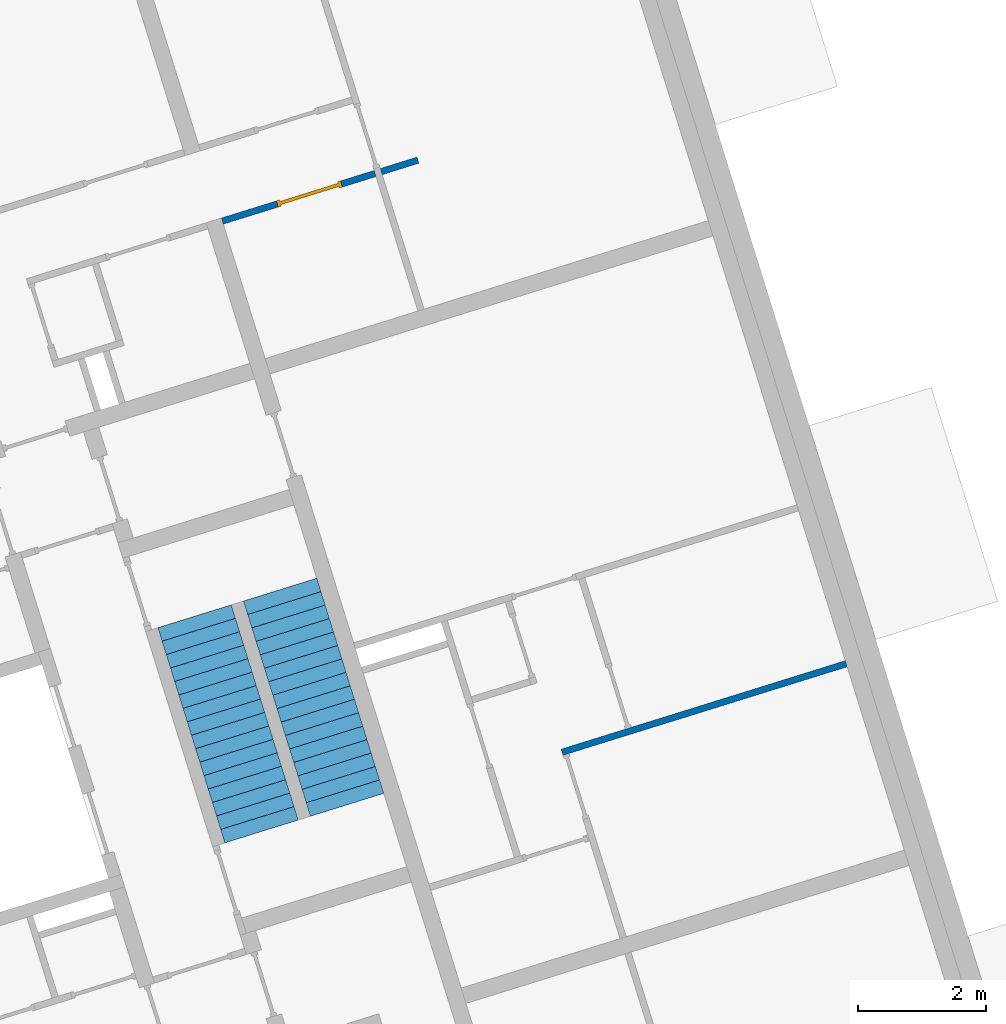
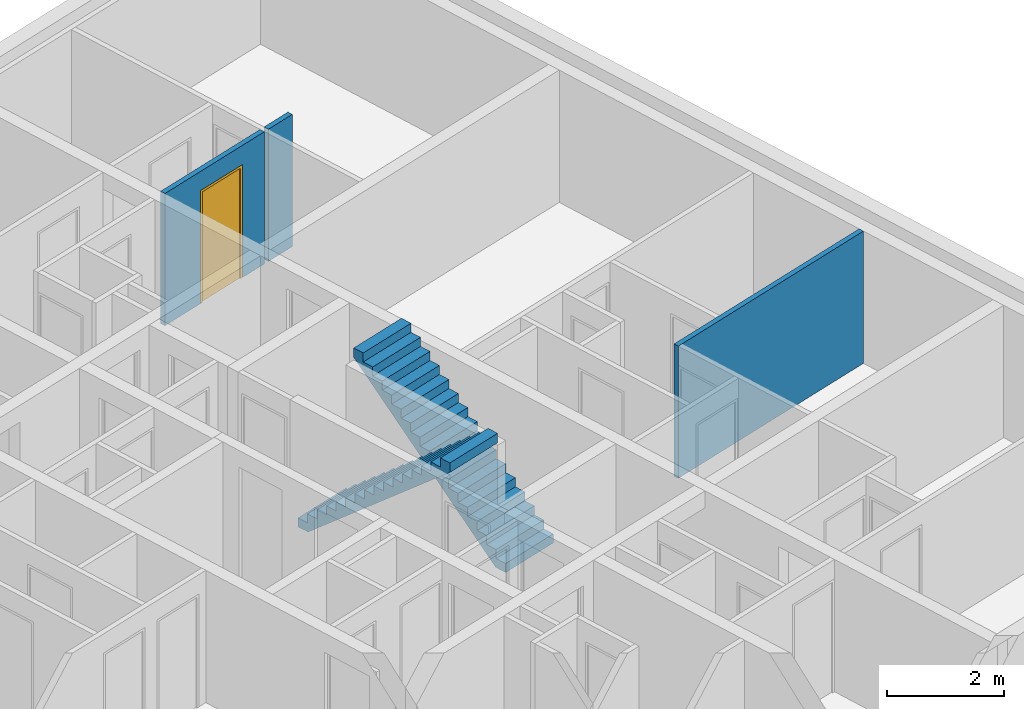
# One storey, part 8 of 8: 2 stair flights, 2 walls, 1 door, 4 openings, 2 elements without a shape of their own.
"""IFC4 building model written with IfcOpenShell, lengths in metres."""

from ifc_helpers import new_model, entity, si_unit, converted_unit, direction, frame, origin, place, context, subcontext, project, spatial, indexed_curve, outline, extrude, polygons, source, transform, mapped, material, constituent, constituent_set, type_object, type_shapes, element, fill, aggregate, save


model = new_model("IFC4")

# Units and contexts
model_context = context("Model", 3, precision=1e-05, world=origin(), true_north=direction((6.12323399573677e-17, 1.0)))
body_context = subcontext(model_context, "Body", "Model", "MODEL_VIEW")
ifc_project = project(units=[si_unit("LENGTHUNIT", "METRE"), si_unit("AREAUNIT", "SQUARE_METRE"), si_unit("VOLUMEUNIT", "CUBIC_METRE"), converted_unit("PLANEANGLEUNIT", "DEGREE", entity("IfcPlaneAngleMeasure", 0.0174532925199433), si_unit("PLANEANGLEUNIT", "RADIAN"), dimensions=[0, 0, 0, 0, 0, 0, 0])], contexts=[model_context])

# Site, building, storey
site_placement = place(None, frame((13.1347999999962, 11.9886000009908, 0.0), z_axis=(0.0, 0.0, 1.0), x_axis=(0.954770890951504, 0.297342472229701, 0.0)))
site = spatial("IfcSite", under=ifc_project, at=site_placement, Name="Schiehaven", CompositionType="ELEMENT")
building_placement = place(site_placement, origin())
building = spatial("IfcBuilding", under=site, at=building_placement, Name="VORM huis", CompositionType="ELEMENT")
storey_placement = place(building_placement, frame((0.0, 0.0, 12.9)))
storey = spatial("IfcBuildingStorey", under=building, at=storey_placement, Name="04 vierde verdieping", CompositionType="ELEMENT", Elevation=12.9)

# Wall, openings, door
ifc_material_1 = material(Name="ntb_ntb_ntb", Category="Miscellaneous")
wall_type = type_object("IfcWallType", Name="Basic Wall:22_WA_afbouw_binnenwand 100mm_gen", PredefinedType="STANDARD")
wall_1_placement = place(storey_placement, frame((20.1250000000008, 24.5750000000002, 0.0)))
wall_1 = element("IfcWall", 1, at=wall_1_placement, inside=storey, type_object=wall_type, material=ifc_material_1, Name="Binnenwand", ObjectType="Wand", PredefinedType="NOTDEFINED", context=body_context, shape_type="Tessellation", body=[
    polygons([(3.45443588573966e-16, -0.0499999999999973, 2.75), (3.45443588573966e-16, -0.0499999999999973, 0.0), (0.899999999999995, -0.049999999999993, 0.0), (0.899999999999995, -0.049999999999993, 2.34999999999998), (1.94999999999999, -0.0499999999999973, 2.34999999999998), (1.95, -0.0499999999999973, 0.0), (2.50000000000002, -0.049999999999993, 0.0), (2.50000000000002, -0.049999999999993, 2.75), (-1.52526066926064e-15, 0.0500000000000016, 0.0), (0.899999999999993, 0.050000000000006, 0.0), (-1.52526066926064e-15, 0.0500000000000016, 2.75), (1.94999999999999, 0.0500000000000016, 2.34999999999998), (1.95, 0.0500000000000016, 0.0), (0.899999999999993, 0.050000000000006, 2.34999999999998), (2.50000000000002, 0.050000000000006, 0.0), (2.50000000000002, 0.050000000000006, 2.75)], [[[1, 2, 3, 4, 5, 6, 7, 8]], [[2, 9, 10, 3]], [[2, 1, 11, 9]], [[6, 5, 12, 13]], [[4, 3, 10, 14]], [[5, 4, 14, 12]], [[8, 7, 15, 16]], [[11, 1, 8, 16]], [[6, 13, 15, 7]], [[9, 11, 16, 15, 13, 12, 14, 10]]], closed=True),
    polygons([(3.2, 0.050000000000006, 2.75), (3.2, 0.050000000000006, 0.0), (2.60000000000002, 0.0500000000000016, 0.0), (2.60000000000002, 0.0500000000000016, 2.75), (3.2, -0.049999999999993, 2.75), (3.2, -0.049999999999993, 0.0), (2.60000000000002, -0.0499999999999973, 2.75), (2.60000000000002, -0.0499999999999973, 0.0)], [[[1, 2, 3, 4]], [[5, 6, 2, 1]], [[5, 1, 4, 7]], [[8, 7, 4, 3]], [[2, 6, 8, 3]], [[6, 5, 7, 8]]], closed=True),
])
opening_1_placement = place(storey_placement, frame((20.1250000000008, 24.5750000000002, 0.0)))
element("IfcOpeningElement", 2, at=opening_1_placement, cuts=wall_1, Name="Binnenwand:1", PredefinedType="OPENING", context=body_context, shape_type="SweptSolid", body=[
    extrude(outline(indexed_curve([(-1.375, -0.0499999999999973), (1.375, -0.0499999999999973), (1.375, 0.0500000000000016), (-1.375, 0.0500000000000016), (-1.375, -0.0499999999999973)], self_intersect=False)), frame((2.50000000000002, 0.0, 1.375), z_axis=(1.0, 0.0, 0.0), x_axis=(0.0, 0.0, -1.0)), (0.0, 0.0, 1.0), 0.0999999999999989),
])
opening_2_placement = place(wall_1_placement, frame((0.899999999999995, -0.050000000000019, 0.0)))
opening_2 = element("IfcOpeningElement", 3, at=opening_2_placement, cuts=wall_1, Name="Binnendeur", PredefinedType="OPENING", context=body_context, shape_type="SweptSolid", body=[
    extrude(outline(indexed_curve([(2.34999999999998, 1.05), (0.0, 1.05), (0.0, 0.0), (2.34999999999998, 0.0), (2.34999999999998, 1.05)], self_intersect=False)), frame((0.0, 0.0, 0.0), z_axis=(0.0, 1.0, 0.0), x_axis=(0.0, 0.0, 1.0)), (0.0, 0.0, 1.0), 0.1),
])
ifc_material_2 = material(Name="PD_a_binnenwandopeningen", Category="Miscellaneous")
ifc_constituent_1 = constituent(ifc_material_2, Name="PD_a_binnenwandopeningen", Category="Miscellaneous")
ifc_material_3 = material(Name="metaal_aluminium_ntb", Category="Miscellaneous")
ifc_constituent_2 = constituent(ifc_material_3, Name="metaal_aluminium_ntb", Category="Miscellaneous")
ifc_constituent_set = constituent_set(constituents=[ifc_constituent_1, ifc_constituent_2])
door_type = type_object("IfcDoorType", Name="32_DO_binnendeur enkel:binnendeur", OperationType="REVOLVING", PredefinedType="DOOR")
shared_shape = source(origin(), body_context, "Body", "SweptSolid", [
    extrude(outline(indexed_curve([(-1.16249999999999, -0.525000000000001), (1.18749999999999, -0.525), (1.18749999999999, 0.525), (-1.16249999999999, 0.525), (-1.16249999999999, 0.475), (1.13749999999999, 0.475), (1.13749999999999, -0.475), (-1.16249999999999, -0.475), (-1.16249999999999, -0.525000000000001)], self_intersect=False)), frame((0.525000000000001, 0.0, 1.16249999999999), z_axis=(0.0, 1.0, 0.0), x_axis=(0.0, 0.0, 1.0)), (0.0, 0.0, 1.0), 0.1),
    extrude(outline(indexed_curve([(-0.025, -0.475), (0.025, -0.475), (0.025, 0.475), (-0.025, 0.475), (-0.025, -0.475)], self_intersect=False)), frame((0.525000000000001, 0.0499999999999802, 0.0), z_axis=(0.0, 0.0, 1.0), x_axis=(0.0, 1.0, 0.0)), (0.0, 0.0, 1.0), 2.29999999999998),
])
type_shapes(door_type, [shared_shape])
door_placement = place(opening_2_placement, origin())
door = element("IfcDoor", 4, at=door_placement, inside=storey, type_object=door_type, material=ifc_constituent_set, Name="Binnendeur", ObjectType="Deur", OperationType="REVOLVING", OverallHeight=2.34999999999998, OverallWidth=1.05, PredefinedType="DOOR", context=body_context, shape_type="MappedRepresentation", body=[
    mapped(shared_shape, transform((0.0, 0.0, 0.0), scale=1.0)),
])
fill(opening_2, door)

# Wall, openings
wall_2_placement = place(storey_placement, frame((22.7250000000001, 15.075, 0.0)))
wall_2 = element("IfcWall", 5, at=wall_2_placement, inside=storey, type_object=wall_type, material=ifc_material_1, Name="Binnenwand", ObjectType="Wand", PredefinedType="NOTDEFINED", context=body_context, shape_type="Tessellation", body=[
    polygons([(2.32806113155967e-16, -0.0500000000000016, 0.0), (4.65000000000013, -0.0500000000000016, 0.0), (4.65000000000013, -0.0500000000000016, 2.75), (0.0999999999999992, -0.0500000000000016, 2.75), (2.32806113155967e-16, -0.0500000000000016, 2.75), (2.32806113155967e-16, -0.0500000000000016, 2.34999999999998), (-1.98070570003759e-16, 0.0499999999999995, 0.0), (-1.98070570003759e-16, 0.0499999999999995, 2.75), (1.05, 0.0499999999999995, 2.75), (1.15, 0.0499999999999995, 2.75), (4.65000000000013, 0.0499999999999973, 2.75), (4.65000000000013, 0.0499999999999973, 0.0)], [[[1, 2, 3, 4, 5, 6]], [[7, 8, 9, 10, 11, 12]], [[2, 1, 7, 12]], [[3, 2, 12, 11]], [[5, 4, 3, 11, 10, 9, 8]], [[1, 6, 5, 8, 7]]], closed=True),
])
opening_3_placement = place(wall_2_placement, origin())
element("IfcOpeningElement", 6, at=opening_3_placement, cuts=wall_2, Name="Binnendeur", PredefinedType="OPENING", context=body_context, shape_type="SweptSolid", body=[
    extrude(outline(indexed_curve([(-0.0499999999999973, -1.17499999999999), (0.0500000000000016, -1.17499999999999), (0.0500000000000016, 1.17499999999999), (-0.0499999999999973, 1.17499999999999), (-0.0499999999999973, -1.17499999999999)], self_intersect=False)), frame((0.050000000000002, -1.1, 1.17499999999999), z_axis=(0.0, 1.0, 0.0), x_axis=(1.0, 0.0, 0.0)), (0.0, 0.0, 1.0), 1.05),
])
opening_4_placement = place(wall_2_placement, origin())
element("IfcOpeningElement", 7, at=opening_4_placement, cuts=wall_2, Name="Binnendeur", PredefinedType="OPENING", context=body_context, shape_type="SweptSolid", body=[
    extrude(outline(indexed_curve([(-0.0500000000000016, -1.17499999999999), (0.0499999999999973, -1.17499999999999), (0.0499999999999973, 1.17499999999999), (-0.0500000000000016, 1.17499999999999), (-0.0500000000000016, -1.17499999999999)], self_intersect=False)), frame((1.1, 0.0500000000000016, 1.17499999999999), z_axis=(0.0, 1.0, 0.0), x_axis=(1.0, 0.0, 0.0)), (0.0, 0.0, 1.0), 1.05),
])

# Stair, stair flight
stair_type = type_object("IfcStairType", Name="Trap", PredefinedType="STRAIGHT_RUN_STAIR")
stair_1_placement = place(storey_placement, origin())
stair_1 = element("IfcStair", 8, at=stair_1_placement, inside=storey, type_object=stair_type, Name="Hoofdtrap", ObjectType="Precast Stair:NLRS_24_STR_reguliere trap-woonfunctie-breedte 1200mm_gen", PredefinedType="STRAIGHT_RUN_STAIR")
ifc_material_4 = material(Name="beton_gewapend_prefab-element", Category="Miscellaneous")
stair_flight_type = type_object("IfcStairFlightType", Name="Monolithic Run:NLRS_24_STRR_trap-beton prefab-monolithisch-recht_gen_rsf", PredefinedType="STRAIGHT")
stair_flight_1_placement = place(stair_1_placement, frame((18.6750000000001, 15.29, 0.0)))
stair_flight_1 = element("IfcStairFlight", 9, at=stair_flight_1_placement, type_object=stair_flight_type, material=ifc_material_4, Name="Hoofdtrap Run 1", ObjectType="Monolithic Run:NLRS_24_STRR_trap-beton prefab-monolithisch-recht_gen_rsf", PredefinedType="STRAIGHT", context=body_context, shape_type="Tessellation", body=[
    polygons([(0.0, 0.220000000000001, 0.187500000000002), (-3.5527136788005e-15, 0.0, 0.187500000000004), (1.2, 0.0, 0.187500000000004), (1.2, 0.219999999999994, 0.187500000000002), (0.0, 0.22000000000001, 1.77635683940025e-15), (-3.5527136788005e-15, 0.0, 1.77635683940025e-15), (1.2, 0.0, 1.77635683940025e-15), (1.2, 0.219999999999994, 1.77635683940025e-15), (0.0, 0.44, 0.375), (-3.5527136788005e-15, 0.219999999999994, 0.375), (1.2, 0.219999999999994, 0.375), (1.2, 0.439999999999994, 0.375), (0.0, 0.439999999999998, 0.177912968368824), (0.0, 0.231248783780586, 3.5527136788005e-15), (1.2, 0.231248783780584, 1.77635683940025e-15), (1.2, 0.439999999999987, 0.17791296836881), (0.0, 0.659999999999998, 0.562500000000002), (0.0, 0.439999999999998, 0.562500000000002), (1.2, 0.439999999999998, 0.562500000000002), (1.2, 0.659999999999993, 0.562500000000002), (0.0, 0.660000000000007, 0.365412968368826), (1.2, 0.659999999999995, 0.365412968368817), (0.0, 0.879999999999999, 0.750000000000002), (0.0, 0.659999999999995, 0.750000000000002), (1.2, 0.659999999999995, 0.750000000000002), (1.2, 0.879999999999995, 0.750000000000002), (0.0, 0.879999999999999, 0.552912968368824), (1.2, 0.879999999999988, 0.552912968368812), (3.5527136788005e-15, 1.1, 0.9375), (0.0, 0.880000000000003, 0.9375), (1.2, 0.880000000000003, 0.9375), (1.2, 1.09999999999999, 0.9375), (0.0, 1.1, 0.740412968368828), (1.2, 1.1, 0.740412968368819), (3.5527136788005e-15, 1.32, 1.125), (0.0, 1.09999999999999, 1.125), (1.2, 1.09999999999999, 1.125), (1.2, 1.31999999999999, 1.125), (0.0, 1.32, 0.927912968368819), (1.2, 1.31999999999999, 0.927912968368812), (7.105427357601e-15, 1.54, 1.3125), (0.0, 1.32, 1.3125), (1.2, 1.32, 1.3125), (1.2, 1.54, 1.3125), (7.105427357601e-15, 1.54000000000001, 1.11541296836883), (1.2, 1.54, 1.11541296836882), (7.105427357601e-15, 1.76, 1.5), (0.0, 1.54, 1.5), (1.2, 1.54, 1.5), (1.2, 1.75999999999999, 1.5), (7.105427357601e-15, 1.76, 1.30291296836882), (1.2, 1.75999999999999, 1.30291296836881), (7.105427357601e-15, 1.98, 1.6875), (7.105427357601e-15, 1.76, 1.6875), (1.2, 1.76, 1.6875), (1.2, 1.97999999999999, 1.6875), (7.105427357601e-15, 1.98000000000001, 1.49041296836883), (1.2, 1.97999999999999, 1.49041296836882), (7.105427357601e-15, 2.2, 1.875), (7.105427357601e-15, 1.97999999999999, 1.875), (1.2, 1.97999999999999, 1.875), (1.2, 2.2, 1.875), (7.105427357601e-15, 2.2, 1.67791296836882), (1.2, 2.19999999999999, 1.67791296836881), (1.06581410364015e-14, 2.42, 2.0625), (7.105427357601e-15, 2.2, 2.0625), (1.2, 2.2, 2.0625), (1.2, 2.41999999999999, 2.0625), (1.06581410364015e-14, 2.42000000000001, 1.86541296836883), (1.2, 2.41999999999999, 1.86541296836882), (1.06581410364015e-14, 2.64, 2.25), (7.105427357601e-15, 2.41999999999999, 2.25), (1.2, 2.41999999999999, 2.25), (1.2, 2.63999999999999, 2.25), (1.06581410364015e-14, 2.64, 2.05291296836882), (1.2, 2.63999999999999, 2.05291296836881), (1.06581410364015e-14, 2.86, 2.4375), (1.06581410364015e-14, 2.64, 2.4375), (1.2, 2.64, 2.4375), (1.2, 2.85999999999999, 2.4375), (1.4210854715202e-14, 2.86000000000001, 2.24041296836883), (1.2, 2.85999999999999, 2.24041296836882), (1.06581410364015e-14, 3.08, 2.625), (1.06581410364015e-14, 2.85999999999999, 2.625), (1.2, 2.85999999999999, 2.625), (1.2, 3.07999999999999, 2.625), (1.4210854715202e-14, 3.08, 2.42791296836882), (1.2, 3.07999999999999, 2.42791296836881), (1.4210854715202e-14, 3.3, 2.8125), (1.4210854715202e-14, 3.08, 2.8125), (1.20000000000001, 3.08, 2.8125), (1.2, 3.29999999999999, 2.8125), (1.4210854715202e-14, 3.30000000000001, 2.61541296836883), (1.2, 3.29999999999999, 2.61541296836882), (1.4210854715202e-14, 3.52, 3.0), (1.4210854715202e-14, 3.29999999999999, 3.0), (1.20000000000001, 3.29999999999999, 3.0), (1.20000000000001, 3.51999999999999, 3.0), (7.105427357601e-15, 3.52, 2.80291296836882), (1.2, 3.51999999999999, 2.80291296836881)], [[[1, 2, 3, 4]], [[2, 1, 5, 6]], [[3, 2, 6, 7]], [[4, 3, 7, 8]], [[9, 10, 11, 12]], [[5, 1, 10, 9, 13, 14]], [[1, 4, 11, 10]], [[4, 8, 15, 16, 12, 11]], [[17, 18, 19, 20]], [[18, 17, 21, 13, 9]], [[9, 12, 19, 18]], [[20, 19, 12, 16, 22]], [[23, 24, 25, 26]], [[24, 23, 27, 21, 17]], [[17, 20, 25, 24]], [[26, 25, 20, 22, 28]], [[29, 30, 31, 32]], [[30, 29, 33, 27, 23]], [[23, 26, 31, 30]], [[32, 31, 26, 28, 34]], [[35, 36, 37, 38]], [[36, 35, 39, 33, 29]], [[29, 32, 37, 36]], [[38, 37, 32, 34, 40]], [[41, 42, 43, 44]], [[42, 41, 45, 39, 35]], [[35, 38, 43, 42]], [[44, 43, 38, 40, 46]], [[47, 48, 49, 50]], [[48, 47, 51, 45, 41]], [[41, 44, 49, 48]], [[50, 49, 44, 46, 52]], [[53, 54, 55, 56]], [[54, 53, 57, 51, 47]], [[47, 50, 55, 54]], [[56, 55, 50, 52, 58]], [[59, 60, 61, 62]], [[60, 59, 63, 57, 53]], [[53, 56, 61, 60]], [[62, 61, 56, 58, 64]], [[65, 66, 67, 68]], [[66, 65, 69, 63, 59]], [[59, 62, 67, 66]], [[68, 67, 62, 64, 70]], [[71, 72, 73, 74]], [[72, 71, 75, 69, 65]], [[65, 68, 73, 72]], [[74, 73, 68, 70, 76]], [[77, 78, 79, 80]], [[78, 77, 81, 75, 71]], [[71, 74, 79, 78]], [[80, 79, 74, 76, 82]], [[83, 84, 85, 86]], [[84, 83, 87, 81, 77]], [[77, 80, 85, 84]], [[86, 85, 80, 82, 88]], [[89, 90, 91, 92]], [[90, 89, 93, 87, 83]], [[83, 86, 91, 90]], [[92, 91, 86, 88, 94]], [[95, 96, 97, 98]], [[96, 95, 99, 93, 89]], [[89, 92, 97, 96]], [[98, 97, 92, 94, 100]], [[95, 98, 100, 99]], [[6, 5, 14, 15, 8, 7]], [[15, 14, 13, 21, 27, 33, 39, 45, 51, 57, 63, 69, 75, 81, 87, 93, 99, 100, 94, 88, 82, 76, 70, 64, 58, 52, 46, 40, 34, 28, 22, 16]]], closed=True),
])
aggregate(stair_1, [stair_flight_1])

stair_2_placement = place(storey_placement, origin())
stair_2 = element("IfcStair", 10, at=stair_2_placement, inside=storey, type_object=stair_type, Name="Hoofdtrap", ObjectType="Precast Stair:NLRS_24_STR_reguliere trap-woonfunctie-breedte 1200mm_gen", PredefinedType="STRAIGHT_RUN_STAIR")
stair_flight_2_placement = place(stair_2_placement, frame((17.2750000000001, 15.29, 0.0)))
stair_flight_2 = element("IfcStairFlight", 11, at=stair_flight_2_placement, type_object=stair_flight_type, material=ifc_material_4, Name="Hoofdtrap Run 1", ObjectType="Monolithic Run:NLRS_24_STRR_trap-beton prefab-monolithisch-recht_gen_rsf", PredefinedType="STRAIGHT", context=body_context, shape_type="Tessellation", body=[
    polygons([(1.20000000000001, 3.3, 0.187500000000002), (1.20000000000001, 3.52, 0.187500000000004), (1.4210854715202e-14, 3.52, 0.187500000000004), (1.4210854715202e-14, 3.30000000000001, 0.187500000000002), (1.20000000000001, 3.3, 1.77635683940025e-15), (1.20000000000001, 3.52, 1.77635683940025e-15), (1.4210854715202e-14, 3.52, 1.77635683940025e-15), (1.4210854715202e-14, 3.30000000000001, 1.77635683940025e-15), (1.20000000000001, 3.08, 0.375), (1.20000000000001, 3.30000000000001, 0.375), (1.4210854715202e-14, 3.30000000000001, 0.375), (1.4210854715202e-14, 3.08000000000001, 0.375), (1.20000000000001, 3.08, 0.177912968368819), (1.20000000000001, 3.28875121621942, 1.77635683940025e-15), (1.4210854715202e-14, 3.28875121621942, 1.77635683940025e-15), (1.4210854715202e-14, 3.08000000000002, 0.177912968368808), (1.20000000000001, 2.86, 0.562500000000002), (1.20000000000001, 3.08, 0.562500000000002), (1.06581410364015e-14, 3.08, 0.562500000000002), (1.06581410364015e-14, 2.86000000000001, 0.562500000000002), (1.20000000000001, 2.86, 0.365412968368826), (1.06581410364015e-14, 2.86000000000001, 0.365412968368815), (1.20000000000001, 2.64, 0.750000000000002), (1.20000000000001, 2.86000000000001, 0.750000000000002), (1.06581410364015e-14, 2.86000000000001, 0.750000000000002), (1.06581410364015e-14, 2.64000000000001, 0.750000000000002), (1.20000000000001, 2.64, 0.552912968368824), (1.06581410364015e-14, 2.64000000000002, 0.55291296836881), (1.20000000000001, 2.42, 0.9375), (1.20000000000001, 2.64, 0.9375), (1.06581410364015e-14, 2.64, 0.9375), (1.06581410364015e-14, 2.42000000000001, 0.9375), (1.20000000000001, 2.42, 0.740412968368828), (1.06581410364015e-14, 2.42000000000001, 0.740412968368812), (1.20000000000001, 2.2, 1.125), (1.20000000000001, 2.42000000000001, 1.125), (1.06581410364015e-14, 2.42000000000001, 1.125), (1.06581410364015e-14, 2.2, 1.125), (1.20000000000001, 2.2, 0.927912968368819), (1.06581410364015e-14, 2.20000000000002, 0.927912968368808), (1.20000000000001, 1.98, 1.3125), (1.20000000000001, 2.2, 1.3125), (7.105427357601e-15, 2.2, 1.3125), (7.105427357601e-15, 1.98000000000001, 1.3125), (1.20000000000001, 1.98, 1.11541296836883), (7.105427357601e-15, 1.98000000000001, 1.11541296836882), (1.20000000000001, 1.76, 1.5), (1.20000000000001, 1.98000000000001, 1.5), (7.105427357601e-15, 1.98000000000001, 1.5), (7.105427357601e-15, 1.76000000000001, 1.5), (1.20000000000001, 1.76, 1.30291296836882), (7.105427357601e-15, 1.76000000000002, 1.30291296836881), (1.2, 1.54, 1.6875), (1.20000000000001, 1.76, 1.6875), (7.105427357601e-15, 1.76, 1.6875), (7.105427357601e-15, 1.54000000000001, 1.6875), (1.2, 1.54, 1.49041296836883), (7.105427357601e-15, 1.54000000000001, 1.49041296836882), (1.2, 1.32, 1.875), (1.20000000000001, 1.54000000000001, 1.875), (7.105427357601e-15, 1.54000000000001, 1.875), (7.105427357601e-15, 1.32000000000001, 1.875), (1.2, 1.32, 1.67791296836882), (7.105427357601e-15, 1.32000000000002, 1.67791296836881), (1.2, 1.1, 2.0625), (1.2, 1.32, 2.0625), (7.105427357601e-15, 1.32, 2.0625), (3.5527136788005e-15, 1.10000000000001, 2.0625), (1.2, 1.09999999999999, 1.86541296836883), (7.105427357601e-15, 1.10000000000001, 1.86541296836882), (1.2, 0.880000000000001, 2.25), (1.2, 1.10000000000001, 2.25), (7.105427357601e-15, 1.10000000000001, 2.25), (3.5527136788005e-15, 0.880000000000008, 2.25), (1.2, 0.880000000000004, 2.05291296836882), (0.0, 0.880000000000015, 2.05291296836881), (1.2, 0.660000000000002, 2.4375), (1.2, 0.880000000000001, 2.4375), (0.0, 0.880000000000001, 2.4375), (0.0, 0.660000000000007, 2.4375), (1.2, 0.659999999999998, 2.24041296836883), (0.0, 0.660000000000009, 2.24041296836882), (1.2, 0.440000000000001, 2.625), (1.2, 0.660000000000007, 2.625), (0.0, 0.660000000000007, 2.625), (0.0, 0.440000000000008, 2.625), (1.2, 0.440000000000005, 2.42791296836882), (0.0, 0.440000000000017, 2.42791296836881), (1.2, 0.220000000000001, 2.8125), (1.2, 0.440000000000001, 2.8125), (0.0, 0.440000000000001, 2.8125), (0.0, 0.220000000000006, 2.8125), (1.2, 0.219999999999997, 2.61541296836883), (0.0, 0.220000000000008, 2.61541296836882), (1.2, 1.77635683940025e-15, 3.0), (1.2, 0.220000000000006, 3.0), (0.0, 0.220000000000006, 3.0), (0.0, 1.24344978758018e-14, 3.0), (1.2, 1.77635683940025e-15, 2.80291296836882), (0.0, 1.24344978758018e-14, 2.80291296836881)], [[[1, 2, 3, 4]], [[2, 1, 5, 6]], [[3, 2, 6, 7]], [[4, 3, 7, 8]], [[9, 10, 11, 12]], [[5, 1, 10, 9, 13, 14]], [[1, 4, 11, 10]], [[4, 8, 15, 16, 12, 11]], [[17, 18, 19, 20]], [[18, 17, 21, 13, 9]], [[9, 12, 19, 18]], [[20, 19, 12, 16, 22]], [[23, 24, 25, 26]], [[24, 23, 27, 21, 17]], [[17, 20, 25, 24]], [[26, 25, 20, 22, 28]], [[29, 30, 31, 32]], [[30, 29, 33, 27, 23]], [[23, 26, 31, 30]], [[32, 31, 26, 28, 34]], [[35, 36, 37, 38]], [[36, 35, 39, 33, 29]], [[29, 32, 37, 36]], [[38, 37, 32, 34, 40]], [[41, 42, 43, 44]], [[42, 41, 45, 39, 35]], [[35, 38, 43, 42]], [[44, 43, 38, 40, 46]], [[47, 48, 49, 50]], [[48, 47, 51, 45, 41]], [[41, 44, 49, 48]], [[50, 49, 44, 46, 52]], [[53, 54, 55, 56]], [[54, 53, 57, 51, 47]], [[47, 50, 55, 54]], [[56, 55, 50, 52, 58]], [[59, 60, 61, 62]], [[60, 59, 63, 57, 53]], [[53, 56, 61, 60]], [[62, 61, 56, 58, 64]], [[65, 66, 67, 68]], [[66, 65, 69, 63, 59]], [[59, 62, 67, 66]], [[68, 67, 62, 64, 70]], [[71, 72, 73, 74]], [[72, 71, 75, 69, 65]], [[65, 68, 73, 72]], [[74, 73, 68, 70, 76]], [[77, 78, 79, 80]], [[78, 77, 81, 75, 71]], [[71, 74, 79, 78]], [[80, 79, 74, 76, 82]], [[83, 84, 85, 86]], [[84, 83, 87, 81, 77]], [[77, 80, 85, 84]], [[86, 85, 80, 82, 88]], [[89, 90, 91, 92]], [[90, 89, 93, 87, 83]], [[83, 86, 91, 90]], [[92, 91, 86, 88, 94]], [[95, 96, 97, 98]], [[96, 95, 99, 93, 89]], [[89, 92, 97, 96]], [[98, 97, 92, 94, 100]], [[95, 98, 100, 99]], [[6, 5, 14, 15, 8, 7]], [[15, 14, 13, 21, 27, 33, 39, 45, 51, 57, 63, 69, 75, 81, 87, 93, 99, 100, 94, 88, 82, 76, 70, 64, 58, 52, 46, 40, 34, 28, 22, 16]]], closed=True),
])
aggregate(stair_2, [stair_flight_2])

save(model, "model.ifc")
